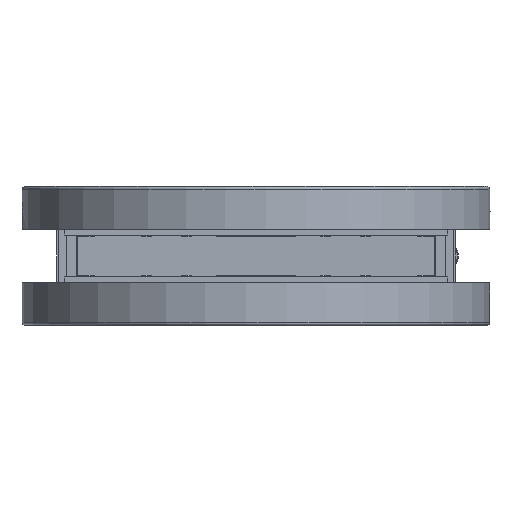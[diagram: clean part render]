
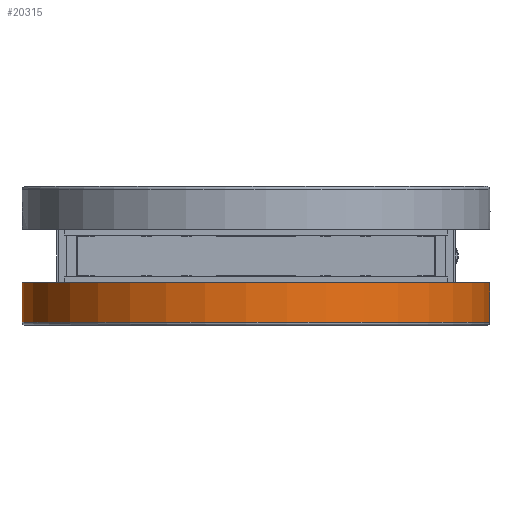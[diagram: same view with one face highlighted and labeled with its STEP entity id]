
A CAD part, left-side view. The second image highlights one B-rep face of the part: STEP entity #20315.
In plain terms, the highlighted cylindrical face has radius 117.5 mm (diameter 235 mm), a full revolution.
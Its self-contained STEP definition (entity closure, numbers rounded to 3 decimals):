
#20315=ADVANCED_FACE('',(#21049,#21050),#20713,.T.);
#20713=CYLINDRICAL_SURFACE('',#35053,117.5);
#21049=FACE_BOUND('',#22558,.T.);
#21050=FACE_BOUND('',#22559,.T.);
#22558=EDGE_LOOP('',(#27294));
#22559=EDGE_LOOP('',(#27295));
#27294=ORIENTED_EDGE('',*,*,#32673,.T.);
#27295=ORIENTED_EDGE('',*,*,#32672,.F.);
#30013=VERTEX_POINT('',#48056);
#30014=VERTEX_POINT('',#48059);
#32672=EDGE_CURVE('',#30013,#30013,#33551,.T.);
#32673=EDGE_CURVE('',#30014,#30014,#33552,.T.);
#33551=CIRCLE('',#35050,117.5);
#33552=CIRCLE('',#35052,117.5);
#35050=AXIS2_PLACEMENT_3D('',#48055,#39935,#39936);
#35052=AXIS2_PLACEMENT_3D('',#48058,#39939,#39940);
#35053=AXIS2_PLACEMENT_3D('',#48060,#39941,#39942);
#39935=DIRECTION('',(0.,0.,-1.));
#39936=DIRECTION('',(-1.,0.,0.));
#39939=DIRECTION('',(0.,0.,-1.));
#39940=DIRECTION('',(1.,0.,0.));
#39941=DIRECTION('',(0.,0.,-1.));
#39942=DIRECTION('',(-1.,0.,0.));
#48055=CARTESIAN_POINT('',(0.,0.,0.));
#48056=CARTESIAN_POINT('',(-117.5,0.,0.));
#48058=CARTESIAN_POINT('',(0.,0.,19.9));
#48059=CARTESIAN_POINT('',(117.5,0.,19.9));
#48060=CARTESIAN_POINT('',(0.,0.,0.));
